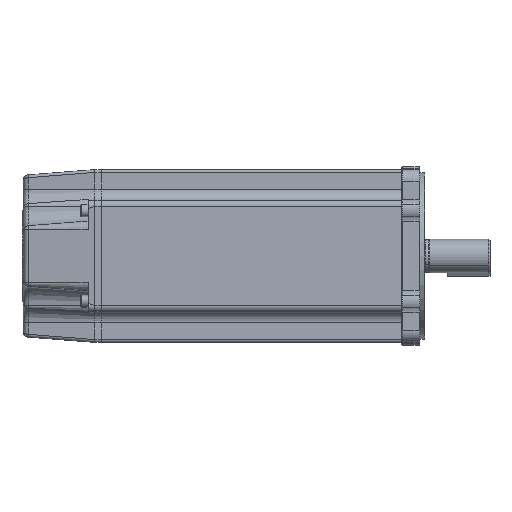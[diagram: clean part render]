
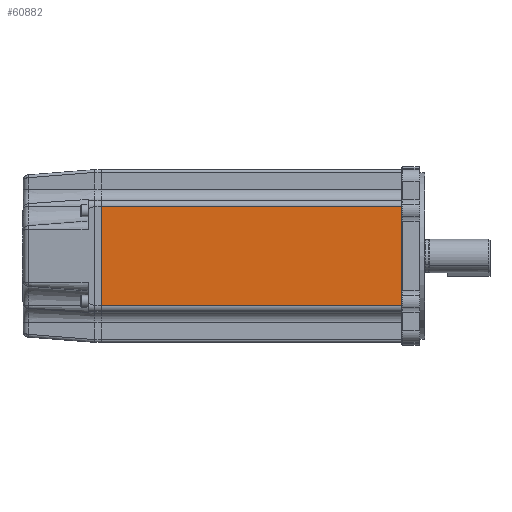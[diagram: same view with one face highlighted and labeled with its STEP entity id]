
A CAD part, front view. The second image highlights one B-rep face of the part: STEP entity #60882.
In plain terms, the highlighted planar face has unit normal (0, -1, 0).
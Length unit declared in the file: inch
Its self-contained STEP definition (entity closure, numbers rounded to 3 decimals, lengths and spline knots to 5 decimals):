
#367 = ORIENTED_EDGE ( 'NONE', *, *, #11247, .T. ) ;
#2714 = CARTESIAN_POINT ( 'NONE',  ( -0.4, -1.935, -1.12 ) ) ;
#3543 = EDGE_CURVE ( 'NONE', #21997, #25691, #59332, .T. ) ;
#7616 = EDGE_CURVE ( 'NONE', #60673, #25691, #39397, .T. ) ;
#10354 = CARTESIAN_POINT ( 'NONE',  ( -7.13, -1.935, -1.935 ) ) ;
#11247 = EDGE_CURVE ( 'NONE', #60673, #31964, #56082, .T. ) ;
#13659 = ORIENTED_EDGE ( 'NONE', *, *, #7616, .F. ) ;
#14513 = DIRECTION ( 'NONE',  ( 0., 0., 1. ) ) ;
#15124 = DIRECTION ( 'NONE',  ( 0., 0., 1. ) ) ;
#16180 = DIRECTION ( 'NONE',  ( 0., 0., 1. ) ) ;
#17363 = CARTESIAN_POINT ( 'NONE',  ( -7.13, -1.935, 1.12 ) ) ;
#19511 = VECTOR ( 'NONE', #36175, 39.37008 ) ;
#20036 = EDGE_CURVE ( 'NONE', #31964, #21997, #23166, .T. ) ;
#21997 = VERTEX_POINT ( 'NONE', #27881 ) ;
#22176 = DIRECTION ( 'NONE',  ( -1., 0., 0. ) ) ;
#22349 = FACE_OUTER_BOUND ( 'NONE', #41228, .T. ) ;
#23166 = LINE ( 'NONE', #44820, #48556 ) ;
#24604 = ORIENTED_EDGE ( 'NONE', *, *, #20036, .T. ) ;
#25691 = VERTEX_POINT ( 'NONE', #55276 ) ;
#27881 = CARTESIAN_POINT ( 'NONE',  ( -0.4, -1.935, 1.12 ) ) ;
#29865 = ORIENTED_EDGE ( 'NONE', *, *, #3543, .T. ) ;
#30954 = CARTESIAN_POINT ( 'NONE',  ( -7.13, -1.935, -1.12 ) ) ;
#31964 = VERTEX_POINT ( 'NONE', #47450 ) ;
#36175 = DIRECTION ( 'NONE',  ( 1., 0., 0. ) ) ;
#39397 = LINE ( 'NONE', #52488, #50553 ) ;
#41228 = EDGE_LOOP ( 'NONE', ( #24604, #29865, #13659, #367 ) ) ;
#43825 = AXIS2_PLACEMENT_3D ( 'NONE', #10354, #43839, #15124 ) ;
#43839 = DIRECTION ( 'NONE',  ( 0., 1., 0. ) ) ;
#44820 = CARTESIAN_POINT ( 'NONE',  ( -0.4, -1.935, -1.935 ) ) ;
#45171 = VECTOR ( 'NONE', #22176, 39.37008 ) ;
#47450 = CARTESIAN_POINT ( 'NONE',  ( -0.4, -1.935, -1.12 ) ) ;
#48556 = VECTOR ( 'NONE', #16180, 39.37008 ) ;
#50553 = VECTOR ( 'NONE', #14513, 39.37008 ) ;
#52488 = CARTESIAN_POINT ( 'NONE',  ( -7.13, -1.935, -1.935 ) ) ;
#52914 = PLANE ( 'NONE',  #43825 ) ;
#55276 = CARTESIAN_POINT ( 'NONE',  ( -7.13, -1.935, 1.12 ) ) ;
#56082 = LINE ( 'NONE', #2714, #19511 ) ;
#59332 = LINE ( 'NONE', #17363, #45171 ) ;
#60673 = VERTEX_POINT ( 'NONE', #30954 ) ;
#60882 = ADVANCED_FACE ( 'NONE', ( #22349 ), #52914, .F. ) ;
